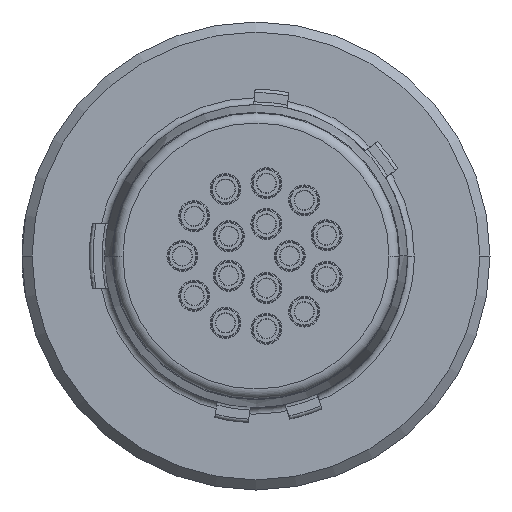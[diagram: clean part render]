
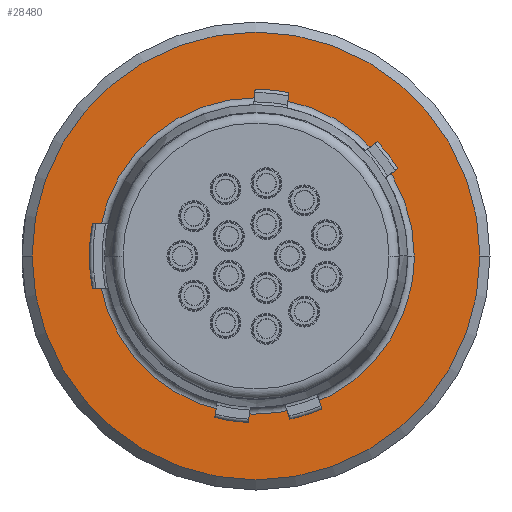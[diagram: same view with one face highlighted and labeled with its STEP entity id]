
A CAD part, left-side view. The second image highlights one B-rep face of the part: STEP entity #28480.
In plain terms, the highlighted planar face has unit normal (-1, 0, 0).
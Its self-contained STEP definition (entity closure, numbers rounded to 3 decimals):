
#8892=CARTESIAN_POINT('',(0.,0.,0.));
#8893=DIRECTION('',(1.,0.,0.));
#8894=DIRECTION('',(0.,1.,0.));
#8895=AXIS2_PLACEMENT_3D('',#8892,#8893,#8894);
#8897=CARTESIAN_POINT('',(0.,0.,0.));
#8898=DIRECTION('',(1.,0.,0.));
#8899=DIRECTION('',(0.,0.,1.));
#8900=AXIS2_PLACEMENT_3D('',#8897,#8898,#8899);
#8902=CARTESIAN_POINT('',(0.,0.,0.));
#8903=DIRECTION('',(1.,0.,0.));
#8904=DIRECTION('',(0.,-1.,0.));
#8905=AXIS2_PLACEMENT_3D('',#8902,#8903,#8904);
#8907=CARTESIAN_POINT('',(0.,0.,0.));
#8908=DIRECTION('',(1.,0.,0.));
#8909=DIRECTION('',(0.,0.,-1.));
#8910=AXIS2_PLACEMENT_3D('',#8907,#8908,#8909);
#8912=CARTESIAN_POINT('',(0.,0.,0.));
#8913=DIRECTION('',(-1.,0.,0.));
#8914=DIRECTION('',(0.,-1.,0.));
#8915=AXIS2_PLACEMENT_3D('',#8912,#8913,#8914);
#8917=CARTESIAN_POINT('',(0.,0.,0.));
#8918=DIRECTION('',(-1.,0.,0.));
#8919=DIRECTION('',(0.,1.,0.));
#8920=AXIS2_PLACEMENT_3D('',#8917,#8918,#8919);
#8922=CARTESIAN_POINT('',(0.,0.,0.));
#8923=DIRECTION('',(-1.,0.,0.));
#8924=DIRECTION('',(0.,-0.977,-0.214));
#8925=AXIS2_PLACEMENT_3D('',#8922,#8923,#8924);
#13642=CARTESIAN_POINT('',(0.,6.65,0.));
#13643=VERTEX_POINT('',#13642);
#13644=CARTESIAN_POINT('',(0.,-6.65,0.));
#13645=CARTESIAN_POINT('',(0.,0.,-6.65));
#13646=VERTEX_POINT('',#13644);
#13647=VERTEX_POINT('',#13645);
#13648=CARTESIAN_POINT('',(0.,0.,6.65));
#13649=VERTEX_POINT('',#13648);
#13650=CARTESIAN_POINT('',(0.,-4.7,0.));
#13651=CARTESIAN_POINT('',(0.,4.7,0.001));
#13652=VERTEX_POINT('',#13650);
#13653=VERTEX_POINT('',#13651);
#13654=CARTESIAN_POINT('',(0.,-4.591,-1.004));
#13655=VERTEX_POINT('',#13654);
#28461=CARTESIAN_POINT('',(0.,0.,0.));
#28462=DIRECTION('',(-1.,0.,0.));
#28463=DIRECTION('',(0.,-1.,0.));
#28464=AXIS2_PLACEMENT_3D('',#28461,#28462,#28463);
#28465=PLANE('',#28464);
#28466=ORIENTED_EDGE('',*,*,#28448,.T.);
#28467=ORIENTED_EDGE('',*,*,#28446,.T.);
#28468=ORIENTED_EDGE('',*,*,#28424,.T.);
#28469=ORIENTED_EDGE('',*,*,#28422,.T.);
#28470=EDGE_LOOP('',(#28466,#28467,#28468,#28469));
#28471=FACE_OUTER_BOUND('',#28470,.F.);
#28473=ORIENTED_EDGE('',*,*,#28472,.T.);
#28475=ORIENTED_EDGE('',*,*,#28474,.T.);
#28477=ORIENTED_EDGE('',*,*,#28476,.T.);
#28478=EDGE_LOOP('',(#28473,#28475,#28477));
#28479=FACE_BOUND('',#28478,.F.);
#8896=CIRCLE('',#8895,6.65);
#8901=CIRCLE('',#8900,6.65);
#8906=CIRCLE('',#8905,6.65);
#8911=CIRCLE('',#8910,6.65);
#8916=CIRCLE('',#8915,4.7);
#8921=CIRCLE('',#8920,4.7);
#8926=CIRCLE('',#8925,4.7);
#28422=EDGE_CURVE('',#13647,#13643,#8911,.T.);
#28424=EDGE_CURVE('',#13646,#13647,#8906,.T.);
#28446=EDGE_CURVE('',#13649,#13646,#8901,.T.);
#28448=EDGE_CURVE('',#13643,#13649,#8896,.T.);
#28472=EDGE_CURVE('',#13652,#13653,#8916,.T.);
#28474=EDGE_CURVE('',#13653,#13655,#8921,.T.);
#28476=EDGE_CURVE('',#13655,#13652,#8926,.T.);
#28480=ADVANCED_FACE('',(#28471,#28479),#28465,.T.);
